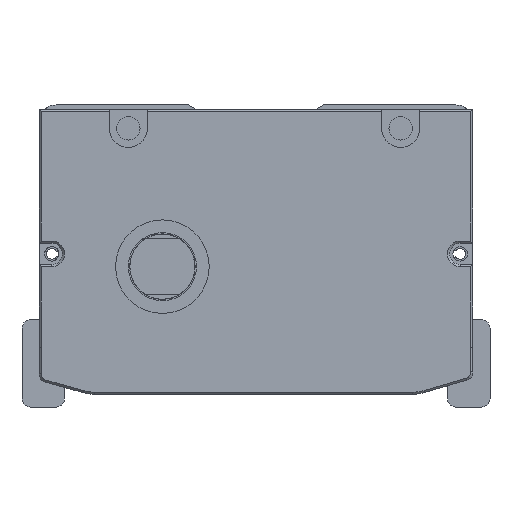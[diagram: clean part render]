
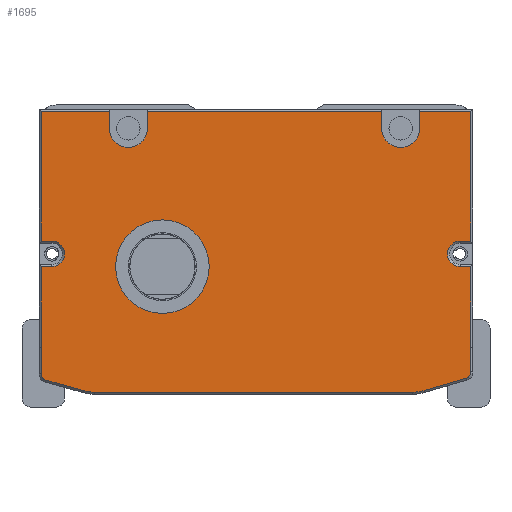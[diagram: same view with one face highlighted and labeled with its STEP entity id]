
A CAD part, front view. The second image highlights one B-rep face of the part: STEP entity #1695.
In plain terms, the highlighted planar face has unit normal (0, -1, 0).
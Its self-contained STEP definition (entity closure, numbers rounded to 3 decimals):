
#1022=FACE_BOUND('',#3565,.T.);
#1023=FACE_BOUND('',#3566,.T.);
#1695=ADVANCED_FACE('',(#1022,#1023),#2390,.F.);
#2390=PLANE('',#14510);
#3565=EDGE_LOOP('',(#6445));
#3566=EDGE_LOOP('',(#6446,#6447,#6448,#6449,#6450,#6451,#6452,#6453,#6454,
#6455,#6456,#6457,#6458,#6459,#6460,#6461,#6462,#6463,#6464,#6465,#6466,
#6467,#6468,#6469,#6470,#6471,#6472,#6473));
#4535=CIRCLE('',#14421,3.);
#4538=CIRCLE('',#14429,3.);
#4541=CIRCLE('',#14441,1.5);
#4543=CIRCLE('',#14445,9.5);
#4545=CIRCLE('',#14449,9.5);
#4547=CIRCLE('',#14453,1.5);
#4552=CIRCLE('',#14468,4.5);
#4556=CIRCLE('',#14474,4.5);
#4557=CIRCLE('',#14483,11.);
#6445=ORIENTED_EDGE('',*,*,#10926,.F.);
#6446=ORIENTED_EDGE('',*,*,#10820,.T.);
#6447=ORIENTED_EDGE('',*,*,#10716,.T.);
#6448=ORIENTED_EDGE('',*,*,#10907,.T.);
#6449=ORIENTED_EDGE('',*,*,#10720,.T.);
#6450=ORIENTED_EDGE('',*,*,#10955,.T.);
#6451=ORIENTED_EDGE('',*,*,#10726,.T.);
#6452=ORIENTED_EDGE('',*,*,#10903,.T.);
#6453=ORIENTED_EDGE('',*,*,#10730,.T.);
#6454=ORIENTED_EDGE('',*,*,#10956,.T.);
#6455=ORIENTED_EDGE('',*,*,#10824,.T.);
#6456=ORIENTED_EDGE('',*,*,#10830,.T.);
#6457=ORIENTED_EDGE('',*,*,#10833,.T.);
#6458=ORIENTED_EDGE('',*,*,#10836,.T.);
#6459=ORIENTED_EDGE('',*,*,#10838,.T.);
#6460=ORIENTED_EDGE('',*,*,#10868,.T.);
#6461=ORIENTED_EDGE('',*,*,#10872,.T.);
#6462=ORIENTED_EDGE('',*,*,#10875,.T.);
#6463=ORIENTED_EDGE('',*,*,#10878,.T.);
#6464=ORIENTED_EDGE('',*,*,#10881,.T.);
#6465=ORIENTED_EDGE('',*,*,#10884,.T.);
#6466=ORIENTED_EDGE('',*,*,#10887,.T.);
#6467=ORIENTED_EDGE('',*,*,#10889,.T.);
#6468=ORIENTED_EDGE('',*,*,#10866,.T.);
#6469=ORIENTED_EDGE('',*,*,#10856,.T.);
#6470=ORIENTED_EDGE('',*,*,#10853,.T.);
#6471=ORIENTED_EDGE('',*,*,#10850,.T.);
#6472=ORIENTED_EDGE('',*,*,#10847,.T.);
#6473=ORIENTED_EDGE('',*,*,#10842,.T.);
#9267=VERTEX_POINT('',#21323);
#9268=VERTEX_POINT('',#21325);
#9271=VERTEX_POINT('',#21332);
#9272=VERTEX_POINT('',#21334);
#9277=VERTEX_POINT('',#21345);
#9278=VERTEX_POINT('',#21347);
#9281=VERTEX_POINT('',#21354);
#9282=VERTEX_POINT('',#21356);
#9340=VERTEX_POINT('',#21542);
#9343=VERTEX_POINT('',#21550);
#9344=VERTEX_POINT('',#21551);
#9349=VERTEX_POINT('',#21562);
#9351=VERTEX_POINT('',#21568);
#9352=VERTEX_POINT('',#21573);
#9354=VERTEX_POINT('',#21579);
#9357=VERTEX_POINT('',#21587);
#9359=VERTEX_POINT('',#21593);
#9361=VERTEX_POINT('',#21599);
#9363=VERTEX_POINT('',#21605);
#9365=VERTEX_POINT('',#21611);
#9372=VERTEX_POINT('',#21635);
#9373=VERTEX_POINT('',#21639);
#9376=VERTEX_POINT('',#21646);
#9378=VERTEX_POINT('',#21652);
#9380=VERTEX_POINT('',#21658);
#9382=VERTEX_POINT('',#21664);
#9384=VERTEX_POINT('',#21670);
#9386=VERTEX_POINT('',#21676);
#9398=VERTEX_POINT('',#21749);
#10716=EDGE_CURVE('',#9268,#9267,#12363,.T.);
#10720=EDGE_CURVE('',#9272,#9271,#12367,.T.);
#10726=EDGE_CURVE('',#9278,#9277,#12373,.T.);
#10730=EDGE_CURVE('',#9282,#9281,#12377,.T.);
#10820=EDGE_CURVE('',#9340,#9268,#12450,.T.);
#10824=EDGE_CURVE('',#9343,#9344,#12454,.T.);
#10830=EDGE_CURVE('',#9344,#9349,#12460,.T.);
#10833=EDGE_CURVE('',#9349,#9351,#4535,.T.);
#10836=EDGE_CURVE('',#9351,#9352,#12464,.T.);
#10838=EDGE_CURVE('',#9352,#9354,#12466,.T.);
#10842=EDGE_CURVE('',#9357,#9340,#12470,.T.);
#10847=EDGE_CURVE('',#9359,#9357,#12475,.T.);
#10850=EDGE_CURVE('',#9361,#9359,#4538,.T.);
#10853=EDGE_CURVE('',#9363,#9361,#12479,.T.);
#10856=EDGE_CURVE('',#9365,#9363,#12482,.T.);
#10866=EDGE_CURVE('',#9372,#9365,#12490,.T.);
#10868=EDGE_CURVE('',#9354,#9373,#12492,.T.);
#10872=EDGE_CURVE('',#9373,#9376,#4541,.T.);
#10875=EDGE_CURVE('',#9376,#9378,#12497,.T.);
#10878=EDGE_CURVE('',#9378,#9380,#4543,.T.);
#10881=EDGE_CURVE('',#9380,#9382,#12501,.T.);
#10884=EDGE_CURVE('',#9382,#9384,#4545,.T.);
#10887=EDGE_CURVE('',#9384,#9386,#12505,.T.);
#10889=EDGE_CURVE('',#9386,#9372,#4547,.T.);
#10903=EDGE_CURVE('',#9277,#9282,#4552,.T.);
#10907=EDGE_CURVE('',#9267,#9272,#4556,.T.);
#10926=EDGE_CURVE('',#9398,#9398,#4557,.T.);
#10955=EDGE_CURVE('',#9271,#9278,#12556,.T.);
#10956=EDGE_CURVE('',#9281,#9343,#12557,.T.);
#12363=LINE('',#21324,#13305);
#12367=LINE('',#21333,#13309);
#12373=LINE('',#21346,#13315);
#12377=LINE('',#21355,#13319);
#12450=LINE('',#21541,#13392);
#12454=LINE('',#21549,#13396);
#12460=LINE('',#21563,#13402);
#12464=LINE('',#21575,#13406);
#12466=LINE('',#21578,#13408);
#12470=LINE('',#21586,#13412);
#12475=LINE('',#21596,#13417);
#12479=LINE('',#21608,#13421);
#12482=LINE('',#21614,#13424);
#12490=LINE('',#21634,#13432);
#12492=LINE('',#21638,#13434);
#12497=LINE('',#21653,#13439);
#12501=LINE('',#21665,#13443);
#12505=LINE('',#21677,#13447);
#12556=LINE('',#21811,#13498);
#12557=LINE('',#21812,#13499);
#13305=VECTOR('',#16633,1.);
#13309=VECTOR('',#16639,1.);
#13315=VECTOR('',#16647,1.);
#13319=VECTOR('',#16653,1.);
#13392=VECTOR('',#16820,1.);
#13396=VECTOR('',#16826,1.);
#13402=VECTOR('',#16834,1.);
#13406=VECTOR('',#16846,1.);
#13408=VECTOR('',#16850,1.);
#13412=VECTOR('',#16856,1.);
#13417=VECTOR('',#16863,1.);
#13421=VECTOR('',#16875,1.);
#13424=VECTOR('',#16880,1.);
#13432=VECTOR('',#16902,1.);
#13434=VECTOR('',#16906,1.);
#13439=VECTOR('',#16919,1.);
#13443=VECTOR('',#16931,1.);
#13447=VECTOR('',#16943,1.);
#13498=VECTOR('',#17110,1.);
#13499=VECTOR('',#17111,1.);
#14421=AXIS2_PLACEMENT_3D('',#21569,#16839,#16840);
#14429=AXIS2_PLACEMENT_3D('',#21602,#16869,#16870);
#14441=AXIS2_PLACEMENT_3D('',#21647,#16912,#16913);
#14445=AXIS2_PLACEMENT_3D('',#21659,#16924,#16925);
#14449=AXIS2_PLACEMENT_3D('',#21671,#16936,#16937);
#14453=AXIS2_PLACEMENT_3D('',#21680,#16947,#16948);
#14468=AXIS2_PLACEMENT_3D('',#21706,#16986,#16987);
#14474=AXIS2_PLACEMENT_3D('',#21714,#16998,#16999);
#14483=AXIS2_PLACEMENT_3D('',#21748,#17034,#17035);
#14510=AXIS2_PLACEMENT_3D('',#21813,#17112,#17113);
#16633=DIRECTION('',(0.,0.,-1.));
#16639=DIRECTION('',(0.,0.,1.));
#16647=DIRECTION('',(0.,0.,-1.));
#16653=DIRECTION('',(0.,0.,1.));
#16820=DIRECTION('',(-1.,0.,0.));
#16826=DIRECTION('',(0.,0.,-1.));
#16834=DIRECTION('',(1.,0.,0.));
#16839=DIRECTION('',(0.,1.,0.));
#16840=DIRECTION('',(0.,0.,1.));
#16846=DIRECTION('',(-1.,0.,0.));
#16850=DIRECTION('',(0.,0.,-1.));
#16856=DIRECTION('',(0.,0.,1.));
#16863=DIRECTION('',(1.,0.,0.));
#16869=DIRECTION('',(0.,1.,0.));
#16870=DIRECTION('',(0.,0.,1.));
#16875=DIRECTION('',(-1.,0.,0.));
#16880=DIRECTION('',(0.,0.,1.));
#16902=DIRECTION('',(0.,0.,1.));
#16906=DIRECTION('',(0.,0.,-1.));
#16912=DIRECTION('',(0.,-1.,0.));
#16913=DIRECTION('',(0.,0.,1.));
#16919=DIRECTION('',(0.963,0.,-0.269));
#16924=DIRECTION('',(0.,-1.,0.));
#16925=DIRECTION('',(0.,0.,1.));
#16931=DIRECTION('',(1.,0.,0.));
#16936=DIRECTION('',(0.,-1.,0.));
#16937=DIRECTION('',(0.,0.,1.));
#16943=DIRECTION('',(0.959,0.,0.282));
#16947=DIRECTION('',(0.,-1.,0.));
#16948=DIRECTION('',(0.,0.,1.));
#16986=DIRECTION('',(0.,1.,0.));
#16987=DIRECTION('',(0.,0.,1.));
#16998=DIRECTION('',(0.,1.,0.));
#16999=DIRECTION('',(0.,0.,1.));
#17034=DIRECTION('',(0.,-1.,0.));
#17035=DIRECTION('',(0.,0.,1.));
#17110=DIRECTION('',(-1.,0.,0.));
#17111=DIRECTION('',(-1.,0.,0.));
#17112=DIRECTION('',(0.,1.,0.));
#17113=DIRECTION('',(1.,0.,0.));
#21323=CARTESIAN_POINT('',(35.308,-57.5,-5.5));
#21324=CARTESIAN_POINT('',(35.308,-57.5,-1.));
#21325=CARTESIAN_POINT('',(35.308,-57.5,-1.5));
#21332=CARTESIAN_POINT('',(26.308,-57.5,-1.5));
#21333=CARTESIAN_POINT('',(26.308,-57.5,-1.));
#21334=CARTESIAN_POINT('',(26.308,-57.5,-5.5));
#21345=CARTESIAN_POINT('',(-28.692,-57.5,-5.5));
#21346=CARTESIAN_POINT('',(-28.692,-57.5,-1.));
#21347=CARTESIAN_POINT('',(-28.692,-57.5,-1.5));
#21354=CARTESIAN_POINT('',(-37.692,-57.5,-1.5));
#21355=CARTESIAN_POINT('',(-37.692,-57.5,-1.));
#21356=CARTESIAN_POINT('',(-37.692,-57.5,-5.5));
#21541=CARTESIAN_POINT('',(-53.692,-57.5,-1.5));
#21542=CARTESIAN_POINT('',(47.308,-57.5,-1.5));
#21549=CARTESIAN_POINT('',(-53.692,-57.5,-32.5));
#21550=CARTESIAN_POINT('',(-53.692,-57.5,-1.5));
#21551=CARTESIAN_POINT('',(-53.692,-57.5,-32.));
#21562=CARTESIAN_POINT('',(-51.192,-57.5,-32.));
#21563=CARTESIAN_POINT('',(-3.192,-57.5,-32.));
#21568=CARTESIAN_POINT('',(-51.192,-57.5,-38.));
#21569=CARTESIAN_POINT('',(-51.192,-57.5,-35.));
#21573=CARTESIAN_POINT('',(-53.692,-57.5,-38.));
#21575=CARTESIAN_POINT('',(-3.192,-57.5,-38.));
#21578=CARTESIAN_POINT('',(-53.692,-57.5,-57.));
#21579=CARTESIAN_POINT('',(-53.692,-57.5,-57.));
#21586=CARTESIAN_POINT('',(47.308,-57.5,-1.5));
#21587=CARTESIAN_POINT('',(47.308,-57.5,-32.));
#21593=CARTESIAN_POINT('',(44.808,-57.5,-32.));
#21596=CARTESIAN_POINT('',(-3.192,-57.5,-32.));
#21599=CARTESIAN_POINT('',(44.808,-57.5,-38.));
#21602=CARTESIAN_POINT('',(44.808,-57.5,-35.));
#21605=CARTESIAN_POINT('',(47.308,-57.5,-38.));
#21608=CARTESIAN_POINT('',(-3.192,-57.5,-38.));
#21611=CARTESIAN_POINT('',(47.308,-57.5,-57.));
#21614=CARTESIAN_POINT('',(47.308,-57.5,-37.5));
#21634=CARTESIAN_POINT('',(47.308,-57.5,-37.5));
#21635=CARTESIAN_POINT('',(47.308,-57.5,-62.758));
#21638=CARTESIAN_POINT('',(-53.692,-57.5,-59.712));
#21639=CARTESIAN_POINT('',(-53.692,-57.5,-63.212));
#21646=CARTESIAN_POINT('',(-52.596,-57.5,-64.657));
#21647=CARTESIAN_POINT('',(-52.192,-57.5,-63.212));
#21652=CARTESIAN_POINT('',(-43.674,-57.5,-67.15));
#21653=CARTESIAN_POINT('',(-43.674,-57.5,-67.15));
#21658=CARTESIAN_POINT('',(-41.118,-57.5,-67.5));
#21659=CARTESIAN_POINT('',(-41.118,-57.5,-58.));
#21664=CARTESIAN_POINT('',(33.631,-57.5,-67.5));
#21665=CARTESIAN_POINT('',(33.631,-57.5,-67.5));
#21670=CARTESIAN_POINT('',(36.312,-57.5,-67.114));
#21671=CARTESIAN_POINT('',(33.631,-57.5,-58.));
#21676=CARTESIAN_POINT('',(46.231,-57.5,-64.197));
#21677=CARTESIAN_POINT('',(46.231,-57.5,-64.197));
#21680=CARTESIAN_POINT('',(45.808,-57.5,-62.758));
#21706=CARTESIAN_POINT('',(-33.192,-57.5,-5.5));
#21714=CARTESIAN_POINT('',(30.808,-57.5,-5.5));
#21748=CARTESIAN_POINT('',(-25.192,-57.5,-38.));
#21749=CARTESIAN_POINT('',(-25.192,-57.5,-27.));
#21811=CARTESIAN_POINT('',(-53.692,-57.5,-1.5));
#21812=CARTESIAN_POINT('',(-53.692,-57.5,-1.5));
#21813=CARTESIAN_POINT('',(-3.192,-57.5,-1.));
